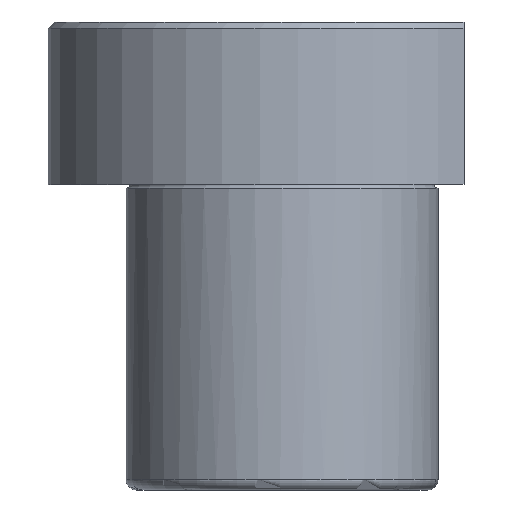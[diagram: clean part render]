
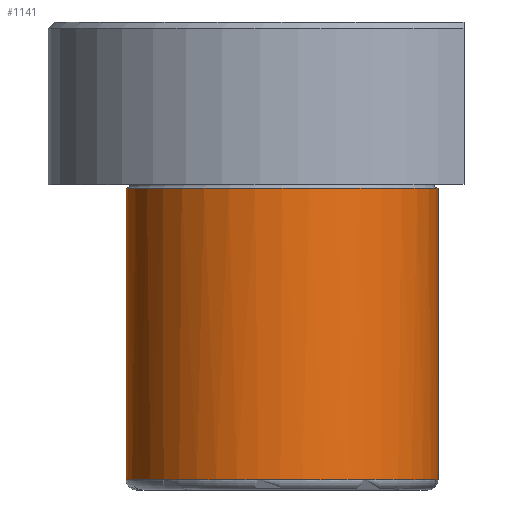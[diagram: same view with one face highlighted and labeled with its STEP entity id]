
A CAD part, front view. The second image highlights one B-rep face of the part: STEP entity #1141.
In plain terms, the highlighted cylindrical face has radius 24 mm (diameter 48 mm), a partial arc.
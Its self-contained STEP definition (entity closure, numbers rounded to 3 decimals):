
#953=CARTESIAN_POINT('Vertex',(24.,0.,-0.6)) ;
#955=CARTESIAN_POINT('Vertex',(-24.,0.,-0.6)) ;
#980=CARTESIAN_POINT('Axis2P3D Location',(0.,0.,-0.6)) ;
#1087=CARTESIAN_POINT('Line Origine',(-24.,0.,25.)) ;
#1091=CARTESIAN_POINT('Vertex',(-24.,0.,-45.4)) ;
#1094=CARTESIAN_POINT('Line Origine',(24.,0.,25.)) ;
#1098=CARTESIAN_POINT('Vertex',(24.,0.,-45.4)) ;
#1113=CARTESIAN_POINT('Axis2P3D Location',(0.,0.,25.)) ;
#1119=CARTESIAN_POINT('Control Point',(-24.,0.,-45.4)) ;
#1120=CARTESIAN_POINT('Control Point',(-24.,-3.77,-45.4)) ;
#1121=CARTESIAN_POINT('Control Point',(-23.26,-7.54,-45.4)) ;
#1122=CARTESIAN_POINT('Control Point',(-21.779,-11.116,-45.4)) ;
#1123=CARTESIAN_POINT('Control Point',(-17.494,-17.494,-45.4)) ;
#1124=CARTESIAN_POINT('Control Point',(-11.116,-21.779,-45.4)) ;
#1125=CARTESIAN_POINT('Control Point',(-7.54,-23.26,-45.4)) ;
#1126=CARTESIAN_POINT('Control Point',(0.,-24.74,-45.4)) ;
#1127=CARTESIAN_POINT('Control Point',(7.54,-23.26,-45.4)) ;
#1128=CARTESIAN_POINT('Control Point',(11.116,-21.779,-45.4)) ;
#1129=CARTESIAN_POINT('Control Point',(17.494,-17.494,-45.4)) ;
#1130=CARTESIAN_POINT('Control Point',(21.779,-11.116,-45.4)) ;
#1131=CARTESIAN_POINT('Control Point',(23.26,-7.54,-45.4)) ;
#1132=CARTESIAN_POINT('Control Point',(24.,-3.77,-45.4)) ;
#1133=CARTESIAN_POINT('Control Point',(24.,0.,-45.4)) ;
#981=DIRECTION('Axis2P3D Direction',(0.,-0.,1.)) ;
#1088=DIRECTION('Vector Direction',(0.,0.,-1.)) ;
#1095=DIRECTION('Vector Direction',(0.,0.,-1.)) ;
#1114=DIRECTION('Axis2P3D Direction',(0.,0.,-1.)) ;
#1115=DIRECTION('Axis2P3D XDirection',(1.,0.,0.)) ;
#982=AXIS2_PLACEMENT_3D('Circle Axis2P3D',#980,#981,$) ;
#1116=AXIS2_PLACEMENT_3D('Cylinder Axis2P3D',#1113,#1114,#1115) ;
#1136=ORIENTED_EDGE('',*,*,#1100,.T.) ;
#1137=ORIENTED_EDGE('',*,*,#984,.F.) ;
#1138=ORIENTED_EDGE('',*,*,#1093,.T.) ;
#1139=ORIENTED_EDGE('',*,*,#1134,.T.) ;
#1089=VECTOR('Line Direction',#1088,1.) ;
#1096=VECTOR('Line Direction',#1095,1.) ;
#1141=ADVANCED_FACE('737-32',(#1140),#1117,.T.) ;
#1118=B_SPLINE_CURVE_WITH_KNOTS('',5,(#1119,#1120,#1121,#1122,#1123,#1124,#1125,#1126,#1127,#1128,#1129,#1130,#1131,#1132,#1133),.UNSPECIFIED.,.F.,.U.,(6,3,3,3,6),(-37.699,-18.85,0.,18.85,37.699),.UNSPECIFIED.) ;
#983=CIRCLE('generated circle',#982,24.) ;
#1117=CYLINDRICAL_SURFACE('generated cylinder',#1116,24.) ;
#984=EDGE_CURVE('',#956,#954,#983,.T.) ;
#1093=EDGE_CURVE('',#956,#1092,#1090,.T.) ;
#1100=EDGE_CURVE('',#1099,#954,#1097,.F.) ;
#1134=EDGE_CURVE('',#1092,#1099,#1118,.T.) ;
#1135=EDGE_LOOP('',(#1136,#1137,#1138,#1139)) ;
#1140=FACE_OUTER_BOUND('',#1135,.T.) ;
#1090=LINE('Line',#1087,#1089) ;
#1097=LINE('Line',#1094,#1096) ;
#954=VERTEX_POINT('',#953) ;
#956=VERTEX_POINT('',#955) ;
#1092=VERTEX_POINT('',#1091) ;
#1099=VERTEX_POINT('',#1098) ;
